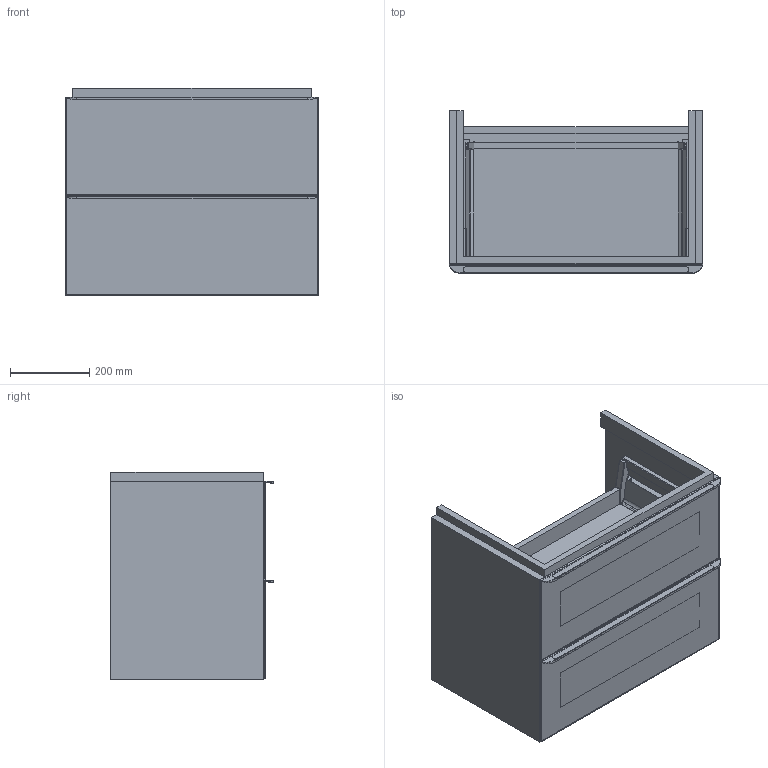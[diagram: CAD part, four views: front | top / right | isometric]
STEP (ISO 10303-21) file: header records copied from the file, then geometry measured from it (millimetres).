
FILE_DESCRIPTION(/* description */ (''),/* implementation_level */ '2;1');
FILE_NAME(/* name */ '3D01_4~4',/* time_stamp */ '2018-05-07T18:09:51+02:00',/* author */ (''),/* organization */ (''),/* preprocessor_version */ 'ST-DEVELOPER v15',/* originating_system */ '',/* authorisation */ '');
FILE_SCHEMA (('AUTOMOTIVE_DESIGN'));
Length unit declared in the file: millimetre
Products named in the file (30): Document; Parte325; Parte323; Parte321; Parte307; Parte305; Parte303; Parte301; Parte295; Parte293; Parte291; Parte289; Parte287; Parte285; Parte283; Parte281; Parte275; Parte273; Parte271; Parte269; Parte267; Parte265; Parte263; Parte261; Parte259; Parte257; Parte255; Parte253; Parte251; Parte249
Assembly tree (29 placements, depth 2):
  Document
    Parte325
    Parte323
    Parte321
    Parte307
    Parte305
    Parte303
    Parte301
    Parte295
    Parte293
    Parte291
    Parte289
    Parte287
    Parte285
    Parte283
    Parte281
    Parte275
    Parte273
    Parte271
    Parte269
    Parte267
    Parte265
    Parte263
    Parte261
    Parte259
    Parte257
    Parte255
    Parte253
    Parte251
    Parte249
Bounding box: 640 x 410 x 522 mm (x, y, z)
Volume: 22723000.3 mm3; surface area: 4596821.9 mm2
Topology: 29 solids, 29 shells, 1258 faces, 3476 edges, 2334 vertices
Faces by surface type: plane 886, bspline 372
Entity records: 41694 total; most frequent: CARTESIAN_POINT 18258, ORIENTED_EDGE 6952, EDGE_CURVE 3476, B_SPLINE_CURVE_WITH_KNOTS 2740, VERTEX_POINT 2334, EDGE_LOOP 1416, ADVANCED_FACE 1258, FACE_OUTER_BOUND 1258
